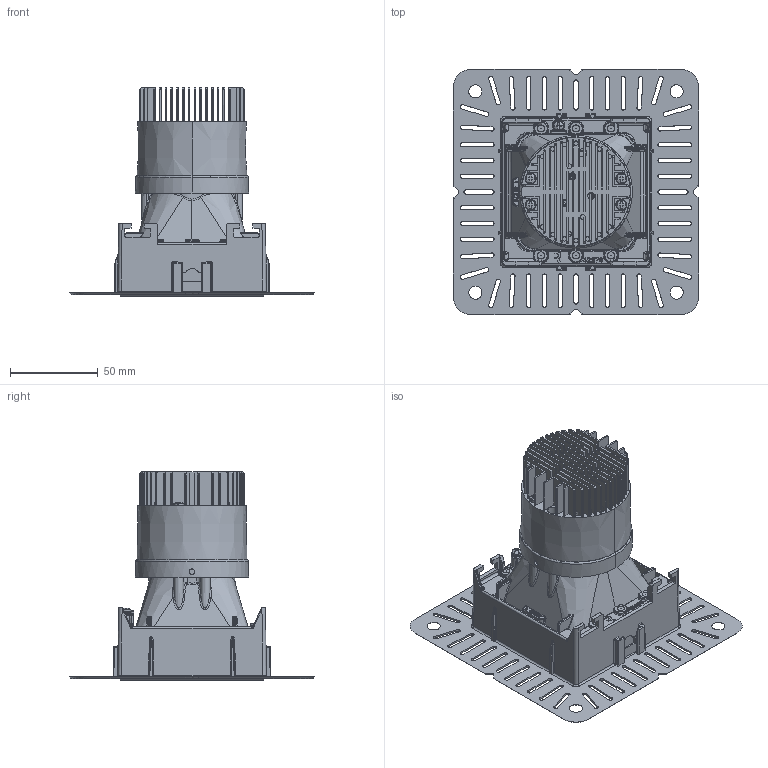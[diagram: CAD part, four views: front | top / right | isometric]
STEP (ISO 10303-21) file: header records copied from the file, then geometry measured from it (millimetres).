
FILE_DESCRIPTION(('CATIA V5 STEP Exchange'),'2;1');
FILE_NAME('C:\Users\stefano.giovinetto\Desktop\X.FP1C - M PRO Fix Square Trimless.stp','2020-10-29T14:49:39+00:00',('none'),('none'),'CATIA Version 5 Release 20 SP 7 (IN-10)','CATIA V5 STEP AP203','none');
FILE_SCHEMA(('CONFIG_CONTROL_DESIGN'));
Length unit declared in the file: millimetre
Products named in the file (1): X.FP1CK
Bounding box: 140 x 140 x 118.82 mm (x, y, z)
Volume: 149524.9 mm3; surface area: 165943.4 mm2
Topology: 35 solids, 57 shells, 5224 faces, 14784 edges, 9527 vertices
Faces by surface type: plane 3124, cylinder 1018, bspline 405, cone 369, sphere 158, torus 131, extrusion 14, revolution 5
Entity records: 214076 total; most frequent: CARTESIAN_POINT 87677, ORIENTED_EDGE 28921, DIRECTION 20951, EDGE_CURVE 14580, VERTEX_POINT 9525, VECTOR 9487, LINE 9473, AXIS2_PLACEMENT_3D 6613
